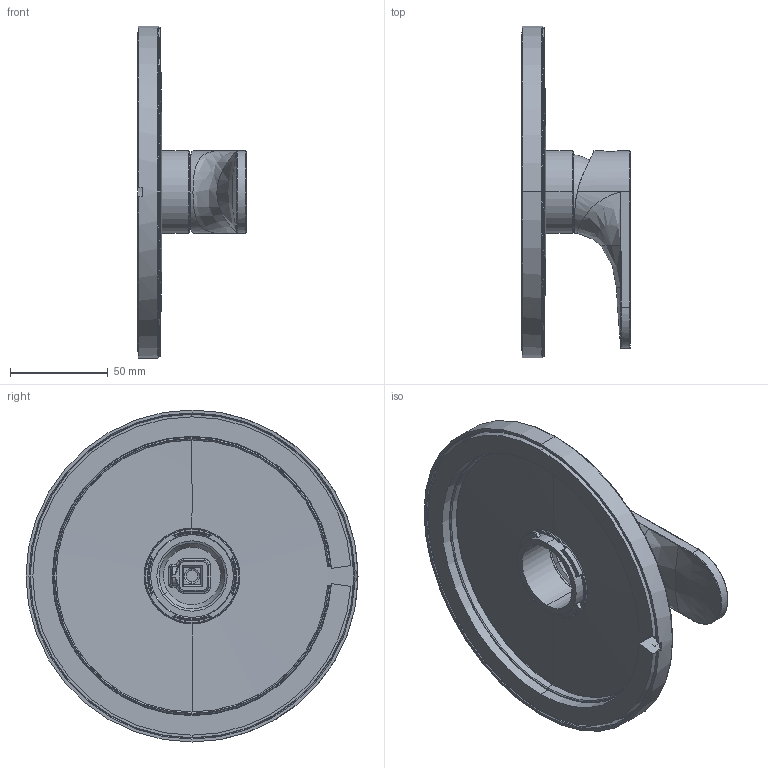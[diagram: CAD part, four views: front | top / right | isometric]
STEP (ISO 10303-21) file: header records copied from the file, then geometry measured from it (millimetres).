
FILE_DESCRIPTION (( 'STEP AP203' ), '1' );
FILE_NAME ('YOYO126108_---.STEP', '2020-07-08T09:23:34', ( 'Admin' ), ( 'Hewlett-Packard Company' ), 'SwSTEP 2.0', 'SolidWorks 2019', '' );
FILE_SCHEMA (( 'CONFIG_CONTROL_DESIGN' ));
Length unit declared in the file: millimetre
Products named in the file (7): tappino_copriforo_cromato_piatto_38007_000; leva_vasca_doccia_126002; coprighiera_37x19_cartuccia_35_nobili_81002_000; piastra_incasso_81047; spugna_biadesiva_81049; corpo-incasso-cartØ35_81108_000_WRL; YOYO126108_---
Assembly tree (6 placements, depth 2):
  YOYO126108_---
    tappino_copriforo_cromato_piatto_38007_000
    leva_vasca_doccia_126002
    coprighiera_37x19_cartuccia_35_nobili_81002_000
    piastra_incasso_81047
    spugna_biadesiva_81049
    corpo-incasso-cartØ35_81108_000_WRL
Bounding box: 55.8 x 170 x 170 mm (x, y, z)
Volume: 161636.1 mm3; surface area: 100158.9 mm2
Topology: 6 solids, 6 shells, 347 faces, 827 edges, 486 vertices
Faces by surface type: cylinder 107, plane 80, torus 69, bspline 42, cone 28, sphere 21
Entity records: 12613 total; most frequent: CARTESIAN_POINT 4161, DIRECTION 1662, ORIENTED_EDGE 1622, EDGE_CURVE 811, AXIS2_PLACEMENT_3D 694, VERTEX_POINT 482, CIRCLE 380, EDGE_LOOP 363
